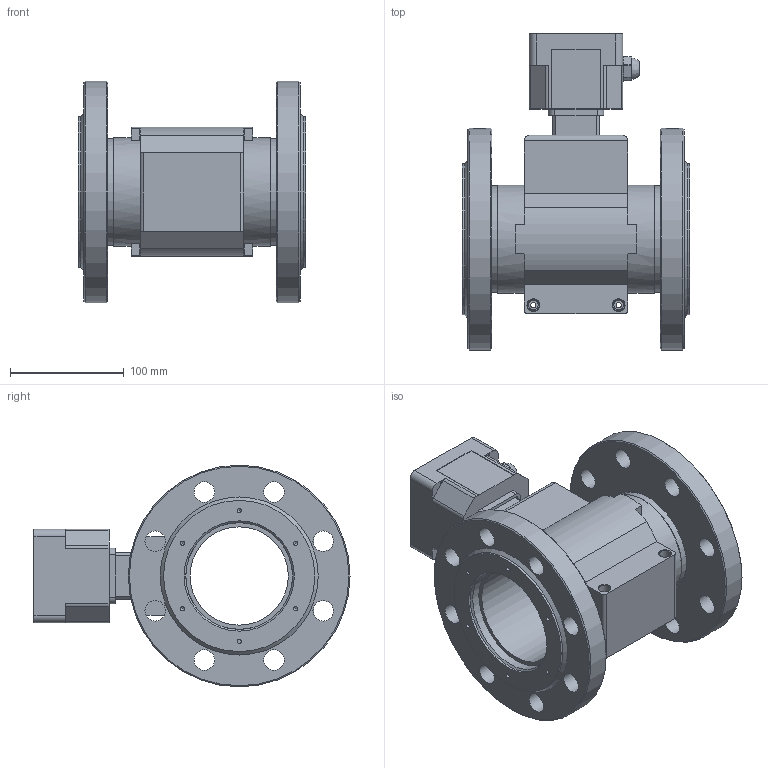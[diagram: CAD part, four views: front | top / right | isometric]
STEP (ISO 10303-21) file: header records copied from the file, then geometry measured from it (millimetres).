
FILE_DESCRIPTION(/* description */ (''),/* implementation_level */ '2;1');
FILE_NAME(/* name */ 'C:\ТЭК\Реклама\ПРЭМ-80F.stp',/* time_stamp */ '2020-01-23T13:17:11+03:00',/* author */ ('Kishalov.m'),/* organization */ (''),/* preprocessor_version */ 'ST-DEVELOPER v18',/* originating_system */ 'Autodesk Inventor 2020',/* authorisation */ '');
FILE_SCHEMA (('AUTOMOTIVE_DESIGN { 1 0 10303 214 3 1 1 }'));
Products named in the file (1): ПРЭМ-80F
Bounding box: 200 x 278 x 195 mm (x, y, z)
Volume: 1763766.6 mm3; surface area: 412998.5 mm2
Topology: 5 solids, 5 shells, 2124 faces, 5666 edges, 3677 vertices
Faces by surface type: plane 1288, bspline 453, cylinder 311, sphere 36, cone 36
Full cylindrical faces by diameter (mm): 0.431 x1, 0.546 x1, 1.159 x2, 1.5 x2, 1.7 x2, 1.8 x8, 2 x4, 2.5 x4, 3.242 x4, 3.65 x12, 4.2 x1, 4.5 x8, 4.7 x4, 5.472 x1, 5.5 x3, 6 x2, 7.5 x4, 8.5 x8, 10.3 x4, 11 x6, 12 x2, 13 x2, 17 x2, 18 x16, 19.094 x2, 20.5 x1, 86.5 x1, 93.8 x2, 94 x2, 95 x2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
Entity records: 76183 total; most frequent: CARTESIAN_POINT 23676, ORIENTED_EDGE 11180, DIRECTION 8853, EDGE_CURVE 5590, LINE 3851, VECTOR 3851, VERTEX_POINT 3677, AXIS2_PLACEMENT_3D 2501
